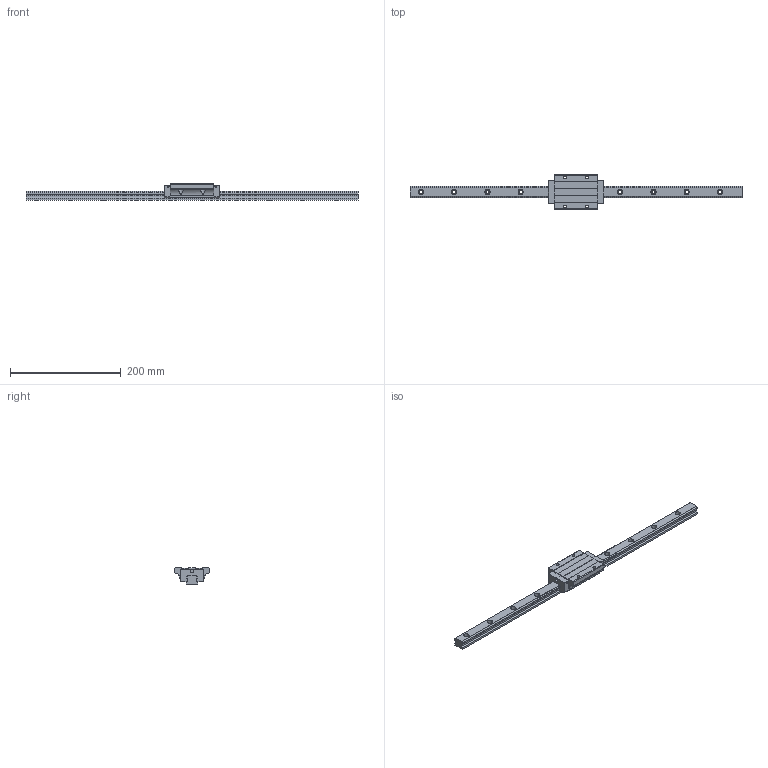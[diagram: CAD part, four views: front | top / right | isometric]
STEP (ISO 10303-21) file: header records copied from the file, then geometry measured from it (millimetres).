
FILE_DESCRIPTION (( 'STEP AP203' ), '1' );
FILE_NAME ('TRH20FE-XN.STEP', '2024-05-09T06:14:16', ( '' ), ( '' ), 'SwSTEP 2.0', 'SolidWorks 2022', '' );
FILE_SCHEMA (( 'CONFIG_CONTROL_DESIGN' ));
Length unit declared in the file: millimetre
Products named in the file (1): TRH20FE-XN
Bounding box: 600 x 63 x 30 mm (x, y, z)
Volume: 264520.8 mm3; surface area: 71044.1 mm2
Topology: 2 solids, 2 shells, 222 faces, 598 edges, 392 vertices
Faces by surface type: cylinder 126, plane 92, sphere 4
Entity records: 7729 total; most frequent: CARTESIAN_POINT 1871, DIRECTION 1242, ORIENTED_EDGE 1188, EDGE_CURVE 594, AXIS2_PLACEMENT_3D 451, VERTEX_POINT 392, LINE 340, VECTOR 340
